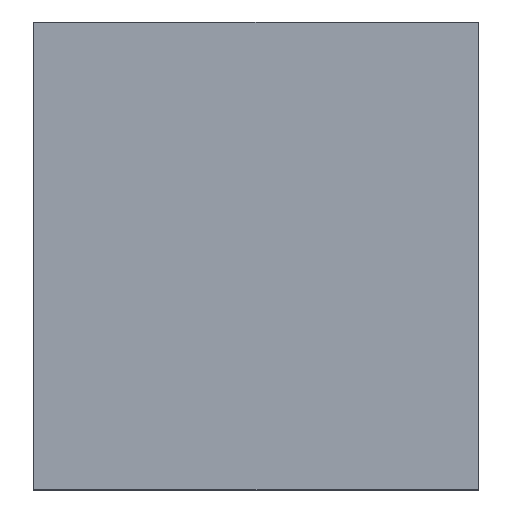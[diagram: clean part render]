
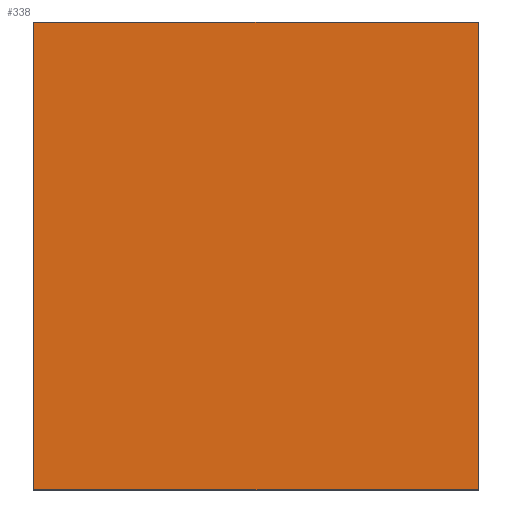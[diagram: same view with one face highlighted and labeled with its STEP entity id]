
A CAD part, top view. The second image highlights one B-rep face of the part: STEP entity #338.
In plain terms, the highlighted planar face has unit normal (0, 0, 1).
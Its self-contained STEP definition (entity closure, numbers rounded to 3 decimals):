
#24 = VERTEX_POINT('',#25);
#25 = CARTESIAN_POINT('',(75.,-79.,12.));
#32 = PLANE('',#33);
#33 = AXIS2_PLACEMENT_3D('',#34,#35,#36);
#34 = CARTESIAN_POINT('',(75.,-79.,0.));
#35 = DIRECTION('',(-0.,1.,-0.));
#36 = DIRECTION('',(1.,0.,0.));
#44 = PLANE('',#45);
#45 = AXIS2_PLACEMENT_3D('',#46,#47,#48);
#46 = CARTESIAN_POINT('',(75.,79.,0.));
#47 = DIRECTION('',(-1.,-0.,-0.));
#48 = DIRECTION('',(0.,1.,0.));
#56 = EDGE_CURVE('',#24,#57,#59,.T.);
#57 = VERTEX_POINT('',#58);
#58 = CARTESIAN_POINT('',(-75.,-79.,12.));
#59 = SURFACE_CURVE('',#60,(#64,#71),.PCURVE_S1.);
#60 = LINE('',#61,#62);
#61 = CARTESIAN_POINT('',(75.,-79.,12.));
#62 = VECTOR('',#63,1.);
#63 = DIRECTION('',(-1.,-0.,-0.));
#64 = PCURVE('',#32,#65);
#65 = DEFINITIONAL_REPRESENTATION('',(#66),#70);
#66 = LINE('',#67,#68);
#67 = CARTESIAN_POINT('',(-0.,-12.));
#68 = VECTOR('',#69,1.);
#69 = DIRECTION('',(-1.,0.));
#70 = ( GEOMETRIC_REPRESENTATION_CONTEXT(2) 
PARAMETRIC_REPRESENTATION_CONTEXT() REPRESENTATION_CONTEXT('2D SPACE',''
  ) );
#71 = PCURVE('',#72,#77);
#72 = PLANE('',#73);
#73 = AXIS2_PLACEMENT_3D('',#74,#75,#76);
#74 = CARTESIAN_POINT('',(0.,0.,12.));
#75 = DIRECTION('',(-0.,-0.,1.));
#76 = DIRECTION('',(1.,0.,0.));
#77 = DEFINITIONAL_REPRESENTATION('',(#78),#82);
#78 = LINE('',#79,#80);
#79 = CARTESIAN_POINT('',(75.,-79.));
#80 = VECTOR('',#81,1.);
#81 = DIRECTION('',(-1.,0.));
#82 = ( GEOMETRIC_REPRESENTATION_CONTEXT(2) 
PARAMETRIC_REPRESENTATION_CONTEXT() REPRESENTATION_CONTEXT('2D SPACE',''
  ) );
#100 = PLANE('',#101);
#101 = AXIS2_PLACEMENT_3D('',#102,#103,#104);
#102 = CARTESIAN_POINT('',(-75.,-79.,0.));
#103 = DIRECTION('',(1.,-0.,-0.));
#104 = DIRECTION('',(0.,-1.,0.));
#142 = EDGE_CURVE('',#57,#143,#145,.T.);
#143 = VERTEX_POINT('',#144);
#144 = CARTESIAN_POINT('',(-75.,79.,12.));
#145 = SURFACE_CURVE('',#146,(#150,#157),.PCURVE_S1.);
#146 = LINE('',#147,#148);
#147 = CARTESIAN_POINT('',(-75.,-79.,12.));
#148 = VECTOR('',#149,1.);
#149 = DIRECTION('',(-0.,1.,-0.));
#150 = PCURVE('',#100,#151);
#151 = DEFINITIONAL_REPRESENTATION('',(#152),#156);
#152 = LINE('',#153,#154);
#153 = CARTESIAN_POINT('',(-0.,-12.));
#154 = VECTOR('',#155,1.);
#155 = DIRECTION('',(-1.,0.));
#156 = ( GEOMETRIC_REPRESENTATION_CONTEXT(2) 
PARAMETRIC_REPRESENTATION_CONTEXT() REPRESENTATION_CONTEXT('2D SPACE',''
  ) );
#157 = PCURVE('',#72,#158);
#158 = DEFINITIONAL_REPRESENTATION('',(#159),#163);
#159 = LINE('',#160,#161);
#160 = CARTESIAN_POINT('',(-75.,-79.));
#161 = VECTOR('',#162,1.);
#162 = DIRECTION('',(-0.,1.));
#163 = ( GEOMETRIC_REPRESENTATION_CONTEXT(2) 
PARAMETRIC_REPRESENTATION_CONTEXT() REPRESENTATION_CONTEXT('2D SPACE',''
  ) );
#181 = PLANE('',#182);
#182 = AXIS2_PLACEMENT_3D('',#183,#184,#185);
#183 = CARTESIAN_POINT('',(-75.,79.,0.));
#184 = DIRECTION('',(-0.,-1.,-0.));
#185 = DIRECTION('',(-1.,0.,0.));
#218 = EDGE_CURVE('',#143,#219,#221,.T.);
#219 = VERTEX_POINT('',#220);
#220 = CARTESIAN_POINT('',(75.,79.,12.));
#221 = SURFACE_CURVE('',#222,(#226,#233),.PCURVE_S1.);
#222 = LINE('',#223,#224);
#223 = CARTESIAN_POINT('',(-75.,79.,12.));
#224 = VECTOR('',#225,1.);
#225 = DIRECTION('',(1.,-0.,-0.));
#226 = PCURVE('',#181,#227);
#227 = DEFINITIONAL_REPRESENTATION('',(#228),#232);
#228 = LINE('',#229,#230);
#229 = CARTESIAN_POINT('',(-0.,-12.));
#230 = VECTOR('',#231,1.);
#231 = DIRECTION('',(-1.,0.));
#232 = ( GEOMETRIC_REPRESENTATION_CONTEXT(2) 
PARAMETRIC_REPRESENTATION_CONTEXT() REPRESENTATION_CONTEXT('2D SPACE',''
  ) );
#233 = PCURVE('',#72,#234);
#234 = DEFINITIONAL_REPRESENTATION('',(#235),#239);
#235 = LINE('',#236,#237);
#236 = CARTESIAN_POINT('',(-75.,79.));
#237 = VECTOR('',#238,1.);
#238 = DIRECTION('',(1.,-0.));
#239 = ( GEOMETRIC_REPRESENTATION_CONTEXT(2) 
PARAMETRIC_REPRESENTATION_CONTEXT() REPRESENTATION_CONTEXT('2D SPACE',''
  ) );
#289 = EDGE_CURVE('',#219,#24,#290,.T.);
#290 = SURFACE_CURVE('',#291,(#295,#302),.PCURVE_S1.);
#291 = LINE('',#292,#293);
#292 = CARTESIAN_POINT('',(75.,79.,12.));
#293 = VECTOR('',#294,1.);
#294 = DIRECTION('',(-0.,-1.,-0.));
#295 = PCURVE('',#44,#296);
#296 = DEFINITIONAL_REPRESENTATION('',(#297),#301);
#297 = LINE('',#298,#299);
#298 = CARTESIAN_POINT('',(-0.,-12.));
#299 = VECTOR('',#300,1.);
#300 = DIRECTION('',(-1.,0.));
#301 = ( GEOMETRIC_REPRESENTATION_CONTEXT(2) 
PARAMETRIC_REPRESENTATION_CONTEXT() REPRESENTATION_CONTEXT('2D SPACE',''
  ) );
#302 = PCURVE('',#72,#303);
#303 = DEFINITIONAL_REPRESENTATION('',(#304),#308);
#304 = LINE('',#305,#306);
#305 = CARTESIAN_POINT('',(75.,79.));
#306 = VECTOR('',#307,1.);
#307 = DIRECTION('',(-0.,-1.));
#308 = ( GEOMETRIC_REPRESENTATION_CONTEXT(2) 
PARAMETRIC_REPRESENTATION_CONTEXT() REPRESENTATION_CONTEXT('2D SPACE',''
  ) );
#338 = ADVANCED_FACE('',(#339),#72,.T.);
#339 = FACE_BOUND('',#340,.F.);
#340 = EDGE_LOOP('',(#341,#342,#343,#344));
#341 = ORIENTED_EDGE('',*,*,#56,.T.);
#342 = ORIENTED_EDGE('',*,*,#142,.T.);
#343 = ORIENTED_EDGE('',*,*,#218,.T.);
#344 = ORIENTED_EDGE('',*,*,#289,.T.);
